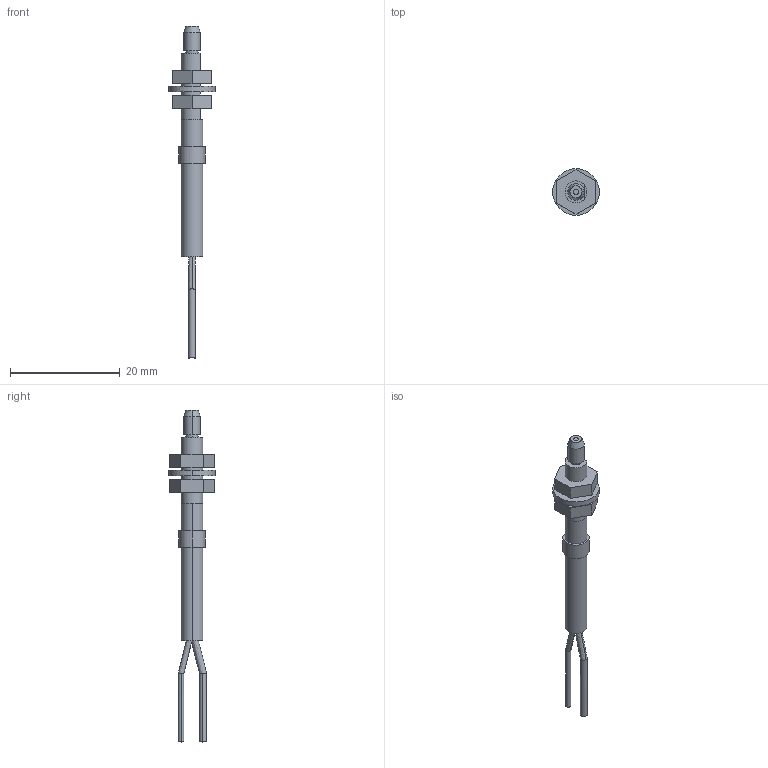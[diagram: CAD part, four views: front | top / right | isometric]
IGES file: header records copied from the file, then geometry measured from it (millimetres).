
Start section: SolidWorks IGES FILE using analytic representation for surfaces
Global section: file name: C:\Documents and Settings\yk0651\デスクトップ\3D_catalog_050904\0_IGES\FD-G4.IGS; native system: SolidWorks 2004 by SolidWorks Corporation; preprocessor: Version 5.3; author: yk0651; date: 050904.183403; units: millimetre
Bounding box: 8.5 x 8.5 x 60.48 mm (x, y, z)
Volume: 761.5 mm3; surface area: 1307.7 mm2
Topology: 9 solids, 9 shells, 69 faces, 142 edges, 94 vertices
Faces by surface type: revolution 35, plane 34
